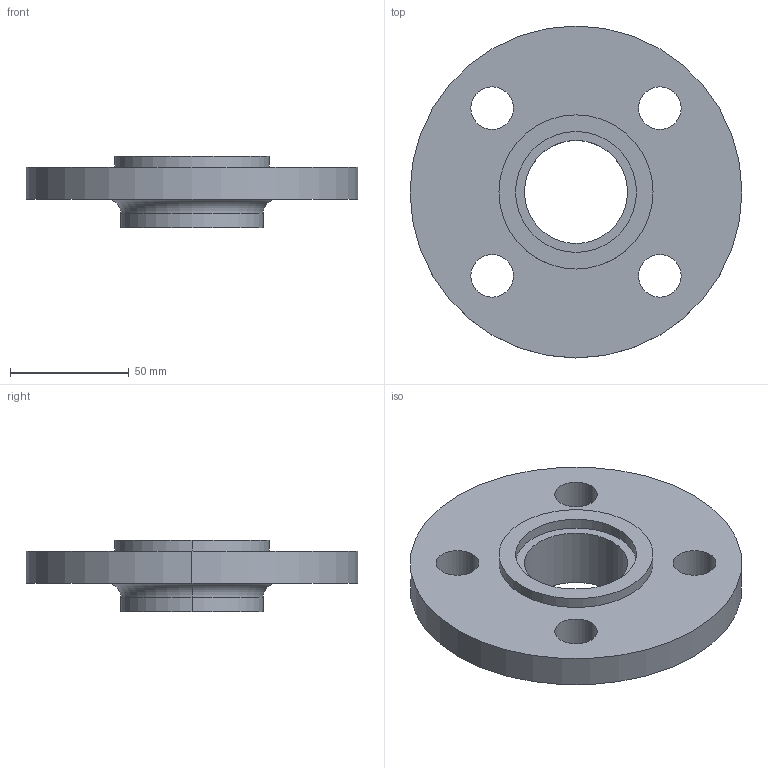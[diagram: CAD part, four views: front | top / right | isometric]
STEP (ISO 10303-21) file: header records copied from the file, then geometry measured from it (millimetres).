
FILE_DESCRIPTION (( 'STEP AP214' ), '1' );
FILE_NAME ('PN40 DN32 Type 12 - Type C Face.STEP', '2018-12-29T23:57:31', ( '' ), ( '' ), 'SwSTEP 2.0', 'SolidWorks 2019', '' );
FILE_SCHEMA (( 'AUTOMOTIVE_DESIGN' ));
Length unit declared in the file: millimetre
Products named in the file (1): PN40 DN32 Type 12 - Type C Face
Bounding box: 140 x 140 x 30 mm (x, y, z)
Volume: 197367.9 mm3; surface area: 41688 mm2
Topology: 1 solids, 1 shells, 25 faces, 58 edges, 38 vertices
Faces by surface type: cylinder 18, plane 5, torus 2
Entity records: 790 total; most frequent: DIRECTION 150, CARTESIAN_POINT 122, ORIENTED_EDGE 116, AXIS2_PLACEMENT_3D 66, EDGE_CURVE 58, CIRCLE 40, EDGE_LOOP 38, VERTEX_POINT 38
